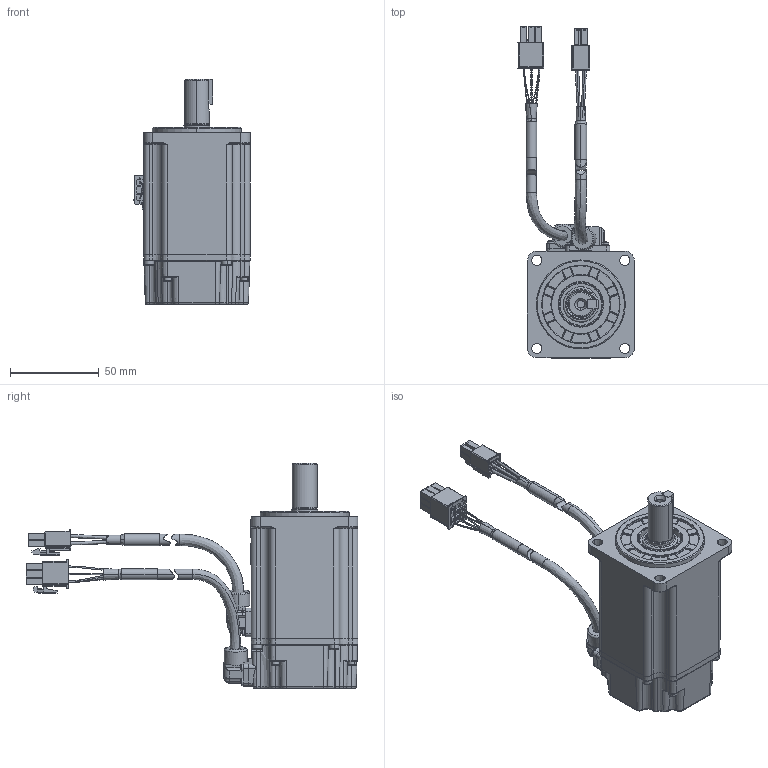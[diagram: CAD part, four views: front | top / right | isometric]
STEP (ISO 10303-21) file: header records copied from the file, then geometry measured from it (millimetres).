
FILE_DESCRIPTION (( 'STEP AP214' ), '1' );
FILE_NAME ('60µç»ú_PM2M-04A60S8S.STEP', '2023-03-29T06:19:27', ( '' ), ( '' ), 'SwSTEP 2.0', 'SolidWorks 2020', '' );
FILE_SCHEMA (( 'AUTOMOTIVE_DESIGN' ));
Length unit declared in the file: millimetre
Products named in the file (1): 60萇儂_PM2M-04A60S8S
Bounding box: 65.46 x 186.5 x 126.6 mm (x, y, z)
Surface area: 45866.5 mm2 (no closed solid volume)
Topology: 0 solids, 53 shells, 1210 faces, 3994 edges, 2735 vertices
Faces by surface type: plane 500, cylinder 334, cone 144, torus 126, bspline 74, sphere 32
Entity records: 61066 total; most frequent: CARTESIAN_POINT 13654, DIRECTION 7228, ORIENTED_EDGE 6416, EDGE_CURVE 3970, VERTEX_POINT 2735, AXIS2_PLACEMENT_3D 2497, VECTOR 2234, LINE 2234
